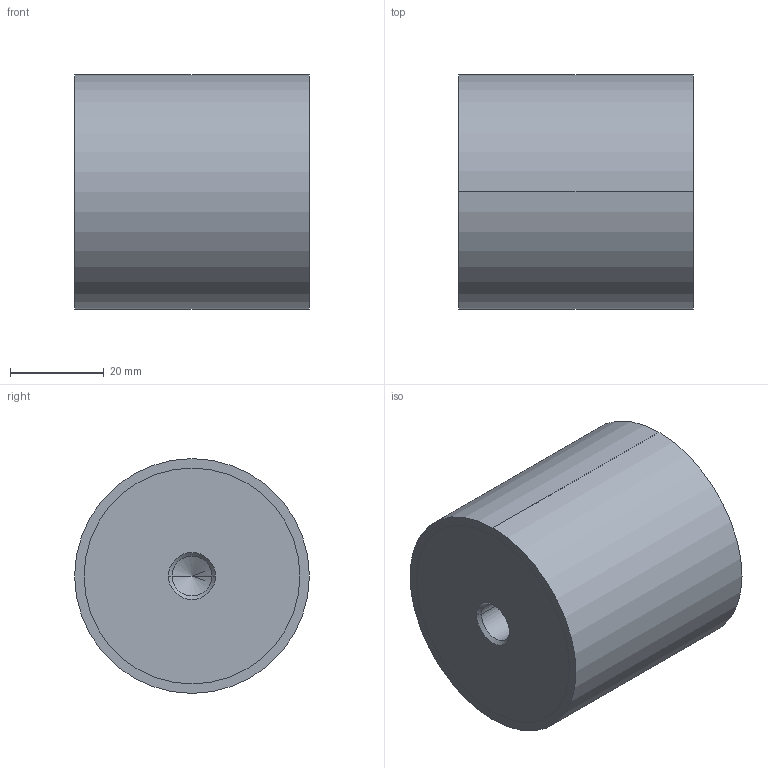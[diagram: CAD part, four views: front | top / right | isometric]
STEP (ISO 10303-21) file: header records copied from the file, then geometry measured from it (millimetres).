
FILE_DESCRIPTION (( 'STEP AP214' ), '1' );
FILE_NAME ('351-50-50-M10-EE-55.step', '2025-07-23T09:48:20', ( '' ), ( '' ), 'SwSTEP 2.0', 'SolidWorks 2022', '' );
FILE_SCHEMA (( 'AUTOMOTIVE_DESIGN' ));
Length unit declared in the file: millimetre
Products named in the file (1): 351-50-50-M10-EE-55
Bounding box: 50 x 50 x 50 mm (x, y, z)
Volume: 96767.1 mm3; surface area: 12376 mm2
Topology: 1 solids, 1 shells, 28 faces, 58 edges, 34 vertices
Faces by surface type: cylinder 14, cone 8, plane 6
Entity records: 844 total; most frequent: DIRECTION 144, CARTESIAN_POINT 117, ORIENTED_EDGE 108, AXIS2_PLACEMENT_3D 61, EDGE_CURVE 54, EDGE_LOOP 34, VERTEX_POINT 34, CIRCLE 32
